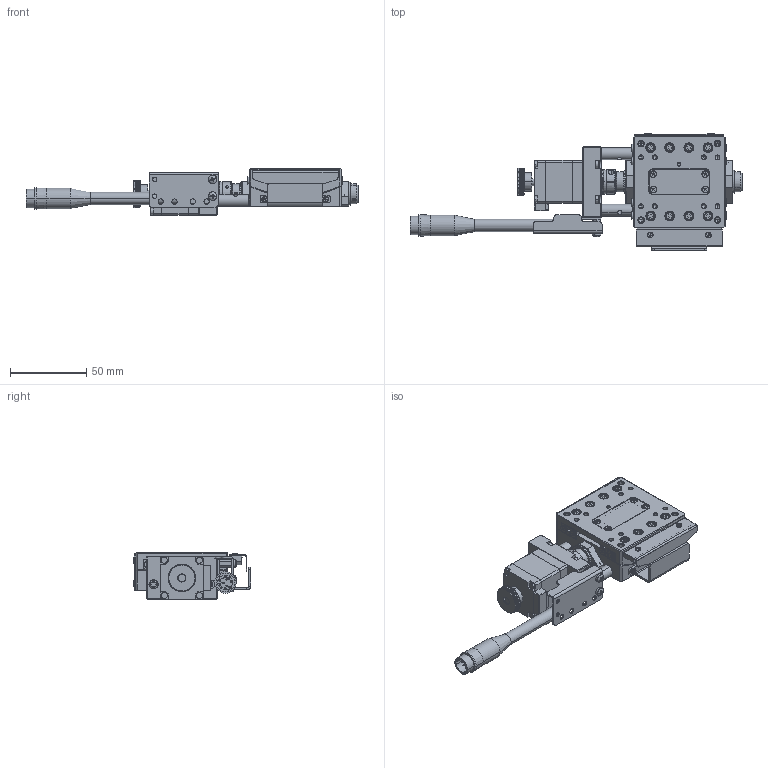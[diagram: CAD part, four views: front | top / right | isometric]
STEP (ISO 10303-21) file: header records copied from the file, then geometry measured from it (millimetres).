
FILE_DESCRIPTION (( 'STEP AP214' ), '1' );
FILE_NAME ('TAA6050-L1-M28L.STEP', '2025-01-03T08:22:10', ( '' ), ( '' ), 'SwSTEP 2.0', 'SolidWorks 2020', '' );
FILE_SCHEMA (( 'AUTOMOTIVE_DESIGN' ));
Length unit declared in the file: millimetre
Products named in the file (1): TAA6050-L1-M28L
Bounding box: 217.08 x 76.71 x 30.5 mm (x, y, z)
Volume: 126658.9 mm3; surface area: 69113.4 mm2
Topology: 23 solids, 122 shells, 3998 faces, 10075 edges, 6370 vertices
Faces by surface type: plane 2024, cylinder 1070, cone 348, bspline 298, torus 214, sphere 44
Entity records: 147827 total; most frequent: CARTESIAN_POINT 53320, ORIENTED_EDGE 19766, DIRECTION 18879, EDGE_CURVE 9883, AXIS2_PLACEMENT_3D 6577, VERTEX_POINT 6386, VECTOR 5725, LINE 5725
